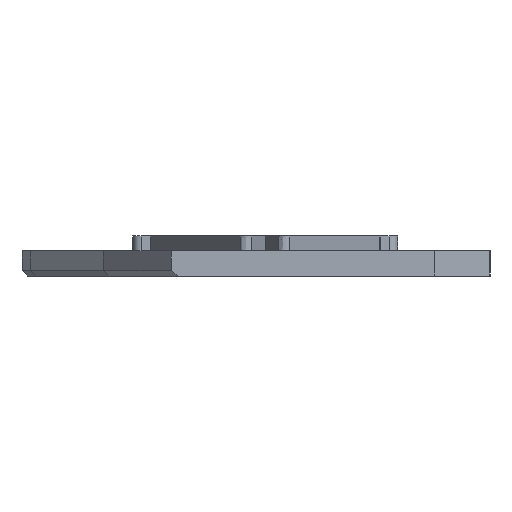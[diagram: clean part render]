
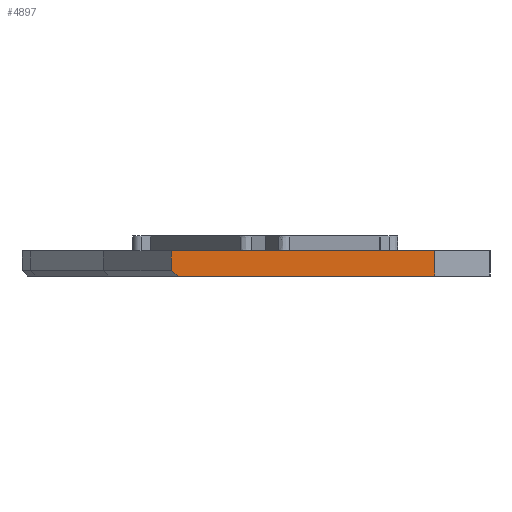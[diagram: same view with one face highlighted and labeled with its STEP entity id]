
A CAD part, front view. The second image highlights one B-rep face of the part: STEP entity #4897.
In plain terms, the highlighted planar face has unit normal (0, -1, 0).
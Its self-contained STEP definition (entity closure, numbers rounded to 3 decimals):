
#1491=DIRECTION('',(1.,0.,0.));
#1492=VECTOR('',#1491,13.893);
#1493=CARTESIAN_POINT('',(-5.013,-68.227,0.));
#1494=LINE('',#1493,#1492);
#1495=DIRECTION('',(0.,0.,-1.));
#1496=VECTOR('',#1495,1.073);
#1497=CARTESIAN_POINT('',(-5.392,-68.227,
1.373));
#1498=LINE('',#1497,#1496);
#1499=DIRECTION('',(-1.,0.,0.));
#1500=VECTOR('',#1499,14.273);
#1501=CARTESIAN_POINT('',(8.88,-68.227,1.373));
#1502=LINE('',#1501,#1500);
#1503=DIRECTION('',(0.,0.,1.));
#1504=VECTOR('',#1503,1.373);
#1505=CARTESIAN_POINT('',(8.88,-68.227,0.));
#1506=LINE('',#1505,#1504);
#1789=DIRECTION('',(-0.784,0.,0.62));
#1790=VECTOR('',#1789,0.484);
#1791=CARTESIAN_POINT('',(-5.013,-68.227,0.));
#1792=LINE('',#1791,#1790);
#3779=CARTESIAN_POINT('',(-5.392,-68.227,
1.373));
#3780=CARTESIAN_POINT('',(-5.392,-68.227,0.3));
#3781=VERTEX_POINT('',#3779);
#3782=VERTEX_POINT('',#3780);
#3815=CARTESIAN_POINT('',(-5.013,-68.227,0.));
#3816=VERTEX_POINT('',#3815);
#3863=CARTESIAN_POINT('',(8.88,-68.227,0.));
#3864=CARTESIAN_POINT('',(8.88,-68.227,1.373));
#3865=VERTEX_POINT('',#3863);
#3866=VERTEX_POINT('',#3864);
#4881=CARTESIAN_POINT('',(-44.313,-68.227,
-2.104));
#4882=DIRECTION('',(0.,-1.,0.));
#4883=DIRECTION('',(1.,0.,0.));
#4884=AXIS2_PLACEMENT_3D('',#4881,#4882,#4883);
#4885=PLANE('',#4884);
#4887=ORIENTED_EDGE('',*,*,#4886,.F.);
#4889=ORIENTED_EDGE('',*,*,#4888,.T.);
#4891=ORIENTED_EDGE('',*,*,#4890,.F.);
#4892=ORIENTED_EDGE('',*,*,#4417,.F.);
#4894=ORIENTED_EDGE('',*,*,#4893,.F.);
#4895=EDGE_LOOP('',(#4887,#4889,#4891,#4892,#4894));
#4896=FACE_OUTER_BOUND('',#4895,.F.);
#4897=ADVANCED_FACE('',(#4896),#4885,.T.);
#4417=EDGE_CURVE('',#3866,#3781,#1502,.T.);
#4886=EDGE_CURVE('',#3816,#3865,#1494,.T.);
#4888=EDGE_CURVE('',#3816,#3782,#1792,.T.);
#4890=EDGE_CURVE('',#3781,#3782,#1498,.T.);
#4893=EDGE_CURVE('',#3865,#3866,#1506,.T.);
